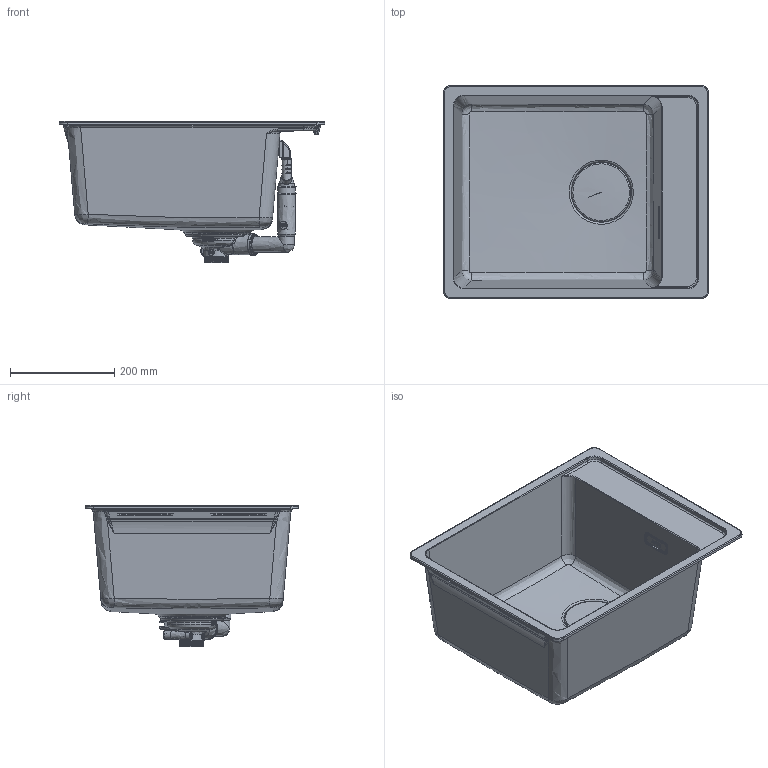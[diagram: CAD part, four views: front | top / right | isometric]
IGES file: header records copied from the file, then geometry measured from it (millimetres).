
Global section: file name: MRG 610-37 TL; native system: Autodesk Inventor 2021; preprocessor: unknown; date: 20210910.133705; units: millimetre
Bounding box: 510 x 410 x 271.19 mm (x, y, z)
Volume: 3458110.1 mm3; surface area: 1138076 mm2
Topology: 20 solids, 21 shells, 5131 faces, 13746 edges, 8846 vertices
Faces by surface type: bspline 5131
